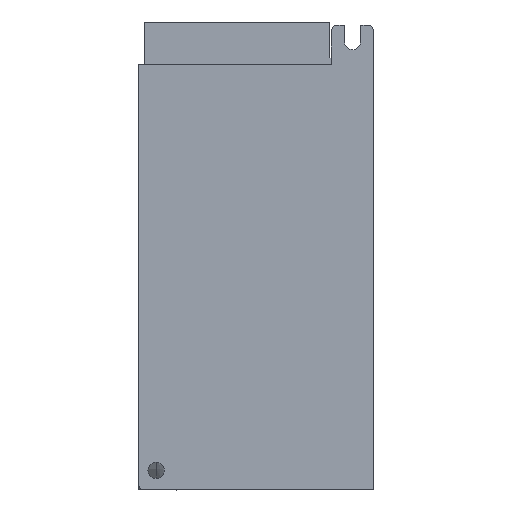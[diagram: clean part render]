
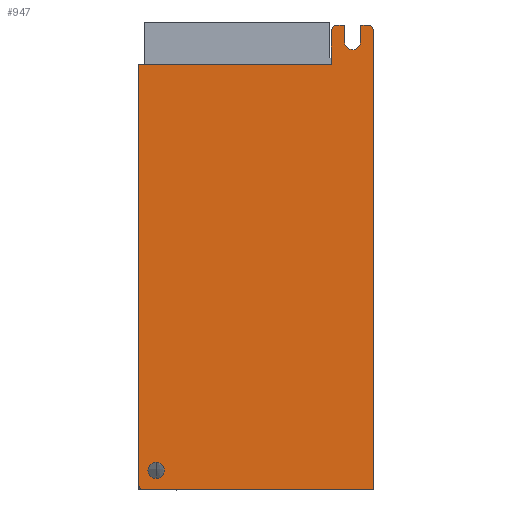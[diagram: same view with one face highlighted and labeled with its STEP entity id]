
A CAD part, front view. The second image highlights one B-rep face of the part: STEP entity #947.
In plain terms, the highlighted planar face has unit normal (0, -1, 0).
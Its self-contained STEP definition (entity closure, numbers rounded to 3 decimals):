
#947=ADVANCED_FACE('',(#3271,#3272),#3273,.F.);
#3271=FACE_OUTER_BOUND('',#6297,.T.);
#3272=FACE_BOUND('',#6298,.T.);
#3273=PLANE('',#6299);
#6297=EDGE_LOOP('',(#14077,#14078,#14079,#14080,#14081,#14082,#14083,#14084,#14085,#14086,#14087,#14088,#14089));
#6298=EDGE_LOOP('',(#14090,#14091));
#6299=AXIS2_PLACEMENT_3D('',#14092,#14093,#14094);
#14077=ORIENTED_EDGE('',*,*,#21768,.T.);
#14078=ORIENTED_EDGE('',*,*,#21769,.T.);
#14079=ORIENTED_EDGE('',*,*,#21770,.F.);
#14080=ORIENTED_EDGE('',*,*,#21771,.T.);
#14081=ORIENTED_EDGE('',*,*,#21772,.T.);
#14082=ORIENTED_EDGE('',*,*,#21773,.F.);
#14083=ORIENTED_EDGE('',*,*,#21774,.T.);
#14084=ORIENTED_EDGE('',*,*,#21775,.T.);
#14085=ORIENTED_EDGE('',*,*,#21776,.T.);
#14086=ORIENTED_EDGE('',*,*,#21777,.F.);
#14087=ORIENTED_EDGE('',*,*,#21732,.F.);
#14088=ORIENTED_EDGE('',*,*,#21764,.F.);
#14089=ORIENTED_EDGE('',*,*,#21767,.F.);
#14090=ORIENTED_EDGE('',*,*,#21778,.F.);
#14091=ORIENTED_EDGE('',*,*,#21779,.F.);
#14092=CARTESIAN_POINT('',(-7.2,29.0,12.0));
#14093=DIRECTION('',(0.0,1.0,0.0));
#14094=DIRECTION('',(0.0,0.0,-1.0));
#21732=EDGE_CURVE('',#26977,#26979,#26980,.T.);
#21764=EDGE_CURVE('',#27037,#26977,#27038,.T.);
#21767=EDGE_CURVE('',#27040,#27037,#27042,.T.);
#21768=EDGE_CURVE('',#27040,#27043,#27044,.T.);
#21769=EDGE_CURVE('',#27043,#27045,#27046,.T.);
#21770=EDGE_CURVE('',#27047,#27045,#27048,.T.);
#21771=EDGE_CURVE('',#27047,#27049,#27050,.T.);
#21772=EDGE_CURVE('',#27049,#27051,#27052,.T.);
#21773=EDGE_CURVE('',#27053,#27051,#27054,.T.);
#21774=EDGE_CURVE('',#27053,#27055,#27056,.T.);
#21775=EDGE_CURVE('',#27055,#27057,#27058,.T.);
#21776=EDGE_CURVE('',#27057,#27059,#27060,.T.);
#21777=EDGE_CURVE('',#26979,#27059,#27061,.T.);
#21778=EDGE_CURVE('',#27062,#27063,#27064,.T.);
#21779=EDGE_CURVE('',#27063,#27062,#27065,.T.);
#26977=VERTEX_POINT('',#35289);
#26979=VERTEX_POINT('',#35292);
#26980=LINE('',#35293,#35294);
#27037=VERTEX_POINT('',#35376);
#27038=LINE('',#35377,#35378);
#27040=VERTEX_POINT('',#35381);
#27042=CIRCLE('',#35384,2.0);
#27043=VERTEX_POINT('',#35385);
#27044=LINE('',#35386,#35387);
#27045=VERTEX_POINT('',#35388);
#27046=LINE('',#35389,#35390);
#27047=VERTEX_POINT('',#35391);
#27048=CIRCLE('',#35392,2.5);
#27049=VERTEX_POINT('',#35393);
#27050=LINE('',#35394,#35395);
#27051=VERTEX_POINT('',#35396);
#27052=LINE('',#35397,#35398);
#27053=VERTEX_POINT('',#35399);
#27054=CIRCLE('',#35400,2.0);
#27055=VERTEX_POINT('',#35401);
#27056=LINE('',#35402,#35403);
#27057=VERTEX_POINT('',#35404);
#27058=LINE('',#35405,#35406);
#27059=VERTEX_POINT('',#35407);
#27060=LINE('',#35408,#35409);
#27061=CIRCLE('',#35410,2.0);
#27062=VERTEX_POINT('',#35411);
#27063=VERTEX_POINT('',#35412);
#27064=CIRCLE('',#35413,2.5);
#27065=CIRCLE('',#35414,2.5);
#35289=CARTESIAN_POINT('',(72.0,29.0,-130.0));
#35292=CARTESIAN_POINT('',(2.0,29.0,-130.0));
#35293=CARTESIAN_POINT('',(72.0,29.0,-130.0));
#35294=VECTOR('',#42668,70.0);
#35376=CARTESIAN_POINT('',(72.0,29.0,10.0));
#35377=CARTESIAN_POINT('',(72.0,29.0,10.0));
#35378=VECTOR('',#42712,140.0);
#35381=CARTESIAN_POINT('',(70.0,29.0,12.0));
#35384=AXIS2_PLACEMENT_3D('',#42715,#42716,#42717);
#35385=CARTESIAN_POINT('',(68.0,29.0,12.0));
#35386=CARTESIAN_POINT('',(70.0,29.0,12.0));
#35387=VECTOR('',#42718,2.0);
#35388=CARTESIAN_POINT('',(68.0,29.0,7.0));
#35389=CARTESIAN_POINT('',(68.0,29.0,12.0));
#35390=VECTOR('',#42719,5.0);
#35391=CARTESIAN_POINT('',(63.0,29.0,7.0));
#35392=AXIS2_PLACEMENT_3D('',#42720,#42721,#42722);
#35393=CARTESIAN_POINT('',(63.0,29.0,12.0));
#35394=CARTESIAN_POINT('',(63.0,29.0,7.0));
#35395=VECTOR('',#42723,5.0);
#35396=CARTESIAN_POINT('',(61.0,29.0,12.0));
#35397=CARTESIAN_POINT('',(63.0,29.0,12.0));
#35398=VECTOR('',#42724,2.0);
#35399=CARTESIAN_POINT('',(59.0,29.0,10.0));
#35400=AXIS2_PLACEMENT_3D('',#42725,#42726,#42727);
#35401=CARTESIAN_POINT('',(59.0,29.0,0.0));
#35402=CARTESIAN_POINT('',(59.0,29.0,10.0));
#35403=VECTOR('',#42728,10.0);
#35404=CARTESIAN_POINT('',(0.0,29.0,0.0));
#35405=CARTESIAN_POINT('',(59.0,29.0,0.0));
#35406=VECTOR('',#42729,59.0);
#35407=CARTESIAN_POINT('',(0.0,29.0,-128.0));
#35408=CARTESIAN_POINT('',(0.0,29.0,0.0));
#35409=VECTOR('',#42730,128.0);
#35410=AXIS2_PLACEMENT_3D('',#42731,#42732,#42733);
#35411=CARTESIAN_POINT('',(3.0,29.0,-124.0));
#35412=CARTESIAN_POINT('',(8.0,29.0,-124.0));
#35413=AXIS2_PLACEMENT_3D('',#42734,#42735,#42736);
#35414=AXIS2_PLACEMENT_3D('',#42737,#42738,#42739);
#42668=DIRECTION('',(-1.0,0.0,0.0));
#42712=DIRECTION('',(0.0,0.0,-1.0));
#42715=CARTESIAN_POINT('',(70.0,29.0,10.0));
#42716=DIRECTION('',(0.0,1.0,0.0));
#42717=DIRECTION('',(0.0,0.0,1.0));
#42718=DIRECTION('',(-1.0,0.0,0.0));
#42719=DIRECTION('',(0.0,0.0,-1.0));
#42720=CARTESIAN_POINT('',(65.5,29.0,7.0));
#42721=DIRECTION('',(0.0,-1.0,0.0));
#42722=DIRECTION('',(-1.0,0.0,0.0));
#42723=DIRECTION('',(0.0,0.0,1.0));
#42724=DIRECTION('',(-1.0,0.0,0.0));
#42725=CARTESIAN_POINT('',(61.0,29.0,10.0));
#42726=DIRECTION('',(0.0,1.0,0.0));
#42727=DIRECTION('',(-1.0,0.0,0.));
#42728=DIRECTION('',(0.0,0.0,-1.0));
#42729=DIRECTION('',(-1.0,0.0,0.0));
#42730=DIRECTION('',(0.0,0.0,-1.0));
#42731=CARTESIAN_POINT('',(2.0,29.0,-128.0));
#42732=DIRECTION('',(0.0,1.0,0.0));
#42733=DIRECTION('',(0.0,0.0,-1.0));
#42734=CARTESIAN_POINT('',(5.5,29.0,-124.0));
#42735=DIRECTION('',(0.0,-1.0,0.0));
#42736=DIRECTION('',(-1.0,0.0,0.0));
#42737=CARTESIAN_POINT('',(5.5,29.0,-124.0));
#42738=DIRECTION('',(0.0,-1.0,0.0));
#42739=DIRECTION('',(1.0,0.0,0.0));
